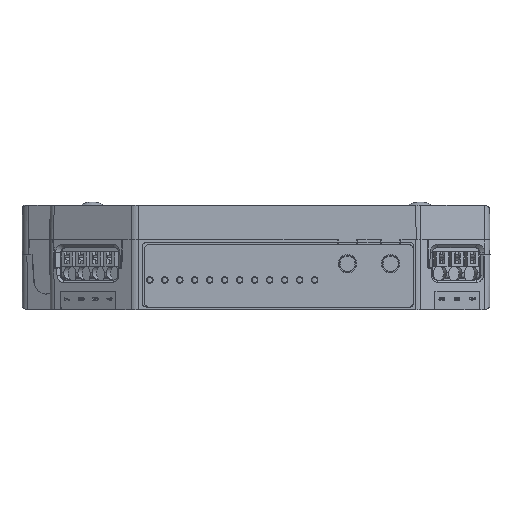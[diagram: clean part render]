
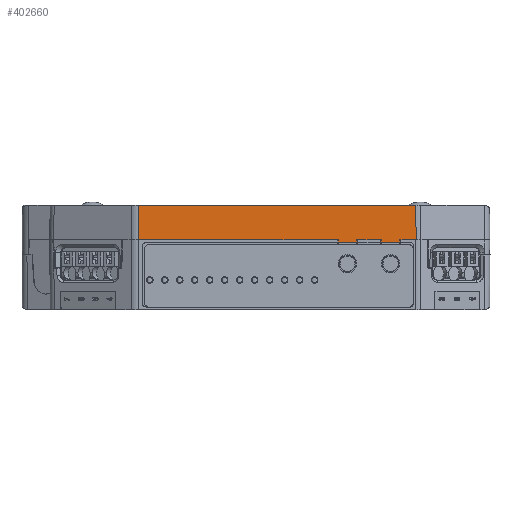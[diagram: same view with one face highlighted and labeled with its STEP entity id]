
A CAD part, left-side view. The second image highlights one B-rep face of the part: STEP entity #402660.
In plain terms, the highlighted planar face has unit normal (-1, 0, 0.009).
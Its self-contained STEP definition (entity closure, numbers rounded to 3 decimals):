
#49200=CARTESIAN_POINT('',(-46.91,-21.981,
16.51));
#49210=VERTEX_POINT('',#49200);
#49240=CARTESIAN_POINT('',(-46.91,-2.952,
16.51));
#49250=DIRECTION('',(0.,1.,
0.));
#49260=VECTOR('',#49250,1.);
#49270=LINE('',#49240,#49260);
#49280=CARTESIAN_POINT('',(-46.91,37.259,
16.51));
#49290=VERTEX_POINT('',#49280);
#49300=EDGE_CURVE('',#49210,#49290,#49270,.T.);
#155870=CARTESIAN_POINT('',(-46.975,-14.583,
9.11));
#155880=VERTEX_POINT('',#155870);
#155930=CARTESIAN_POINT('',(-46.975,-14.586,
9.06));
#155940=DIRECTION('',(0.009,0.052,
0.999));
#155950=VECTOR('',#155940,1.);
#155960=LINE('',#155930,#155950);
#155970=CARTESIAN_POINT('',(-46.979,-14.609,
8.61));
#155980=VERTEX_POINT('',#155970);
#155990=EDGE_CURVE('',#155980,#155880,#155960,.T.);
#160590=CARTESIAN_POINT('',(-46.979,-18.495,
8.61));
#160600=VERTEX_POINT('',#160590);
#160630=CARTESIAN_POINT('',(-46.975,-18.519,
9.06));
#160640=DIRECTION('',(-0.009,0.052,
-0.999));
#160650=VECTOR('',#160640,1.);
#160660=LINE('',#160630,#160650);
#160670=CARTESIAN_POINT('',(-46.975,-18.521,
9.11));
#160680=VERTEX_POINT('',#160670);
#160690=EDGE_CURVE('',#160680,#160600,#160660,.T.);
#401550=CARTESIAN_POINT('',(-46.975,37.277,
9.11));
#401560=VERTEX_POINT('',#401550);
#401680=CARTESIAN_POINT('',(-46.975,-2.952,
9.11));
#401690=DIRECTION('',(1.,0.,
-0.009));
#401700=DIRECTION('',(0.,-1.,0.));
#401710=AXIS2_PLACEMENT_3D('',#401680,#401690,#401700);
#401720=PLANE('',#401710);
#401730=CARTESIAN_POINT('',(-46.975,-2.952,
9.11));
#401740=DIRECTION('',(0.,-1.,0.));
#401750=VECTOR('',#401740,1.);
#401760=LINE('',#401730,#401750);
#401770=CARTESIAN_POINT('',(-46.975,-21.957,
9.11));
#401780=VERTEX_POINT('',#401770);
#401790=CARTESIAN_POINT('',(-46.975,-21.993,
9.11));
#401800=VERTEX_POINT('',#401790);
#401810=EDGE_CURVE('',#401780,#401800,#401760,.T.);
#401820=ORIENTED_EDGE('',*,*,#401810,.T.);
#401830=CARTESIAN_POINT('',(-46.975,-18.771,
9.11));
#401840=VERTEX_POINT('',#401830);
#401850=EDGE_CURVE('',#401840,#401780,#401760,.T.);
#401860=ORIENTED_EDGE('',*,*,#401850,.T.);
#401870=CARTESIAN_POINT('',(-46.975,-2.952,
9.11));
#401880=DIRECTION('',(0.,-1.,0.));
#401890=VECTOR('',#401880,1.);
#401900=LINE('',#401870,#401890);
#401910=EDGE_CURVE('',#160680,#401840,#401900,.T.);
#401920=ORIENTED_EDGE('',*,*,#401910,.T.);
#401930=ORIENTED_EDGE('',*,*,#160690,.F.);
#401940=CARTESIAN_POINT('',(-46.979,-2.952,
8.61));
#401950=DIRECTION('',(0.,-1.,0.));
#401960=VECTOR('',#401950,1.);
#401970=LINE('',#401940,#401960);
#401980=EDGE_CURVE('',#155980,#160600,#401970,.T.);
#401990=ORIENTED_EDGE('',*,*,#401980,.T.);
#402000=ORIENTED_EDGE('',*,*,#155990,.F.);
#402010=CARTESIAN_POINT('',(-46.975,-14.333,
9.11));
#402020=VERTEX_POINT('',#402010);
#402030=EDGE_CURVE('',#402020,#155880,#401900,.T.);
#402040=ORIENTED_EDGE('',*,*,#402030,.T.);
#402050=CARTESIAN_POINT('',(-46.975,-2.952,
9.11));
#402060=DIRECTION('',(0.,-1.,0.));
#402070=VECTOR('',#402060,1.);
#402080=LINE('',#402050,#402070);
#402090=CARTESIAN_POINT('',(-46.975,-9.571,
9.11));
#402100=VERTEX_POINT('',#402090);
#402110=EDGE_CURVE('',#402100,#402020,#402080,.T.);
#402120=ORIENTED_EDGE('',*,*,#402110,.T.);
#402130=CARTESIAN_POINT('',(-46.975,-9.321,
9.11));
#402140=VERTEX_POINT('',#402130);
#402150=EDGE_CURVE('',#402140,#402100,#401900,.T.);
#402160=ORIENTED_EDGE('',*,*,#402150,.T.);
#402170=CARTESIAN_POINT('',(-46.975,-9.319,
9.06));
#402180=DIRECTION('',(-0.009,0.052,
-0.999));
#402190=VECTOR('',#402180,1.);
#402200=LINE('',#402170,#402190);
#402210=CARTESIAN_POINT('',(-46.979,-9.295,
8.61));
#402220=VERTEX_POINT('',#402210);
#402230=EDGE_CURVE('',#402140,#402220,#402200,.T.);
#402240=ORIENTED_EDGE('',*,*,#402230,.F.);
#402250=CARTESIAN_POINT('',(-46.979,-2.952,
8.61));
#402260=DIRECTION('',(0.,-1.,0.));
#402270=VECTOR('',#402260,1.);
#402280=LINE('',#402250,#402270);
#402290=CARTESIAN_POINT('',(-46.979,-5.409,
8.61));
#402300=VERTEX_POINT('',#402290);
#402310=EDGE_CURVE('',#402300,#402220,#402280,.T.);
#402320=ORIENTED_EDGE('',*,*,#402310,.T.);
#402330=CARTESIAN_POINT('',(-46.975,-5.386,
9.06));
#402340=DIRECTION('',(0.009,0.052,
0.999));
#402350=VECTOR('',#402340,1.);
#402360=LINE('',#402330,#402350);
#402370=CARTESIAN_POINT('',(-46.975,-5.383,
9.11));
#402380=VERTEX_POINT('',#402370);
#402390=EDGE_CURVE('',#402300,#402380,#402360,.T.);
#402400=ORIENTED_EDGE('',*,*,#402390,.F.);
#402410=CARTESIAN_POINT('',(-46.975,-5.133,
9.11));
#402420=VERTEX_POINT('',#402410);
#402430=EDGE_CURVE('',#402420,#402380,#401900,.T.);
#402440=ORIENTED_EDGE('',*,*,#402430,.T.);
#402450=CARTESIAN_POINT('',(-46.975,-2.952,
9.11));
#402460=DIRECTION('',(0.,-1.,0.));
#402470=VECTOR('',#402460,1.);
#402480=LINE('',#402450,#402470);
#402490=EDGE_CURVE('',#401560,#402420,#402480,.T.);
#402500=ORIENTED_EDGE('',*,*,#402490,.T.);
#402510=CARTESIAN_POINT('',(-46.975,37.277,
9.088));
#402520=DIRECTION('',(0.009,-0.002,
1.));
#402530=VECTOR('',#402520,1.);
#402540=LINE('',#402510,#402530);
#402550=EDGE_CURVE('',#401560,#49290,#402540,.T.);
#402560=ORIENTED_EDGE('',*,*,#402550,.F.);
#402570=ORIENTED_EDGE('',*,*,#49300,.T.);
#402580=CARTESIAN_POINT('',(-46.975,-21.993,
9.086));
#402590=DIRECTION('',(0.009,0.002,
1.));
#402600=VECTOR('',#402590,1.);
#402610=LINE('',#402580,#402600);
#402620=EDGE_CURVE('',#401800,#49210,#402610,.T.);
#402630=ORIENTED_EDGE('',*,*,#402620,.T.);
#402640=EDGE_LOOP('',(#402630,#402570,#402560,#402500,#402440,#402400,
#402320,#402240,#402160,#402120,#402040,#402000,#401990,#401930,#401920,
#401860,#401820));
#402650=FACE_OUTER_BOUND('',#402640,.T.);
#402660=ADVANCED_FACE('',(#402650),#401720,.F.);
